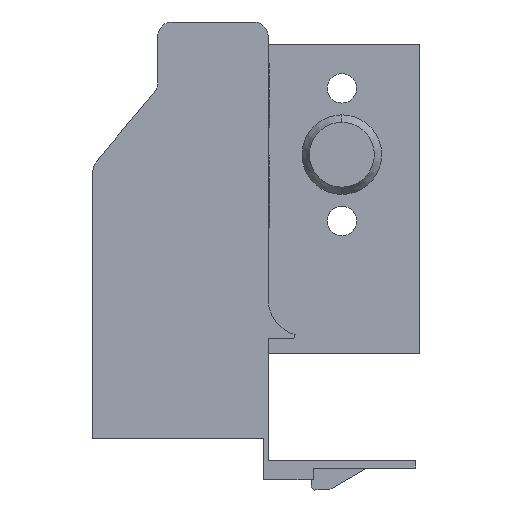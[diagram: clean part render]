
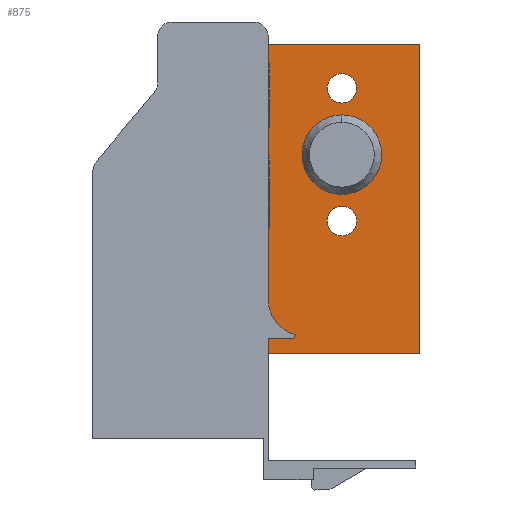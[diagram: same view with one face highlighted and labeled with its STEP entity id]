
A CAD part, front view. The second image highlights one B-rep face of the part: STEP entity #875.
In plain terms, the highlighted planar face has unit normal (0, -1, 0).
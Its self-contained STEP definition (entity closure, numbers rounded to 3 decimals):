
#51 = AXIS2_PLACEMENT_3D ( 'NONE', #2034, #2039, #2040 ) ;
#59 = EDGE_CURVE ( 'NONE', #1011, #1006, #763, .T. ) ;
#63 = EDGE_CURVE ( 'NONE', #1007, #1006, #740, .T. ) ;
#174 = EDGE_CURVE ( 'NONE', #933, #935, #1235, .T. ) ;
#178 = EDGE_CURVE ( 'NONE', #915, #922, #1236, .T. ) ;
#190 = AXIS2_PLACEMENT_3D ( 'NONE', #1828, #1833, #1834 ) ;
#207 = AXIS2_PLACEMENT_3D ( 'NONE', #1654, #1655, #1656 ) ;
#213 = AXIS2_PLACEMENT_3D ( 'NONE', #1864, #1873, #1874 ) ;
#224 = AXIS2_PLACEMENT_3D ( 'NONE', #1657, #1660, #1661 ) ;
#239 = EDGE_CURVE ( 'NONE', #1010, #1009, #1302, .T. ) ;
#246 = EDGE_CURVE ( 'NONE', #1009, #1008, #1310, .T. ) ;
#248 = EDGE_CURVE ( 'NONE', #1007, #1008, #1309, .T. ) ;
#249 = AXIS2_PLACEMENT_3D ( 'NONE', #1872, #1895, #1896 ) ;
#304 = AXIS2_PLACEMENT_3D ( 'NONE', #1825, #1840, #1841 ) ;
#311 = EDGE_CURVE ( 'NONE', #922, #915, #1378, .T. ) ;
#314 = EDGE_CURVE ( 'NONE', #935, #933, #1382, .T. ) ;
#337 = EDGE_CURVE ( 'NONE', #942, #912, #1406, .T. ) ;
#357 = EDGE_CURVE ( 'NONE', #912, #942, #1424, .T. ) ;
#358 = EDGE_CURVE ( 'NONE', #1010, #1011, #1400, .T. ) ;
#625 = ORIENTED_EDGE ( 'NONE', *, *, #174, .F. ) ;
#629 = ORIENTED_EDGE ( 'NONE', *, *, #248, .T. ) ;
#632 = ORIENTED_EDGE ( 'NONE', *, *, #357, .F. ) ;
#633 = ORIENTED_EDGE ( 'NONE', *, *, #239, .F. ) ;
#637 = ORIENTED_EDGE ( 'NONE', *, *, #59, .T. ) ;
#639 = ORIENTED_EDGE ( 'NONE', *, *, #358, .T. ) ;
#641 = ORIENTED_EDGE ( 'NONE', *, *, #337, .F. ) ;
#642 = ORIENTED_EDGE ( 'NONE', *, *, #63, .F. ) ;
#644 = ORIENTED_EDGE ( 'NONE', *, *, #178, .T. ) ;
#645 = ORIENTED_EDGE ( 'NONE', *, *, #314, .F. ) ;
#646 = ORIENTED_EDGE ( 'NONE', *, *, #311, .T. ) ;
#650 = ORIENTED_EDGE ( 'NONE', *, *, #246, .F. ) ;
#737 = VECTOR ( 'NONE', #1064, 1000. ) ;
#740 = LINE ( 'NONE', #1061, #737 ) ;
#745 = VECTOR ( 'NONE', #1057, 1000. ) ;
#763 = LINE ( 'NONE', #1051, #745 ) ;
#875 = ADVANCED_FACE ( 'NONE', ( #1484, #1488, #1490, #1492 ), #2031, .T. ) ;
#912 = VERTEX_POINT ( 'NONE', #2153 ) ;
#915 = VERTEX_POINT ( 'NONE', #2164 ) ;
#922 = VERTEX_POINT ( 'NONE', #2170 ) ;
#933 = VERTEX_POINT ( 'NONE', #2181 ) ;
#935 = VERTEX_POINT ( 'NONE', #2183 ) ;
#942 = VERTEX_POINT ( 'NONE', #2190 ) ;
#1006 = VERTEX_POINT ( 'NONE', #1568 ) ;
#1007 = VERTEX_POINT ( 'NONE', #1569 ) ;
#1008 = VERTEX_POINT ( 'NONE', #1570 ) ;
#1009 = VERTEX_POINT ( 'NONE', #1571 ) ;
#1010 = VERTEX_POINT ( 'NONE', #1572 ) ;
#1011 = VERTEX_POINT ( 'NONE', #1573 ) ;
#1051 = CARTESIAN_POINT ( 'NONE',  ( 21.1, 397.2, 40. ) ) ;
#1057 = DIRECTION ( 'NONE',  ( -1., 0., 0. ) ) ;
#1061 = CARTESIAN_POINT ( 'NONE',  ( 21.1, 397.2, 20. ) ) ;
#1064 = DIRECTION ( 'NONE',  ( 0., 0., 1. ) ) ;
#1122 = EDGE_LOOP ( 'NONE', ( #644, #646 ) ) ;
#1127 = EDGE_LOOP ( 'NONE', ( #629, #650, #633, #639, #637, #642 ) ) ;
#1136 = EDGE_LOOP ( 'NONE', ( #645, #625 ) ) ;
#1156 = EDGE_LOOP ( 'NONE', ( #641, #632 ) ) ;
#1235 = CIRCLE ( 'NONE', #207, 2. ) ;
#1236 = CIRCLE ( 'NONE', #224, 5.4 ) ;
#1287 = VECTOR ( 'NONE', #1759, 1000. ) ;
#1302 = LINE ( 'NONE', #1744, #1303 ) ;
#1303 = VECTOR ( 'NONE', #1745, 1000. ) ;
#1309 = LINE ( 'NONE', #1758, #1287 ) ;
#1310 = LINE ( 'NONE', #1752, #1311 ) ;
#1311 = VECTOR ( 'NONE', #1753, 1000. ) ;
#1378 = CIRCLE ( 'NONE', #190, 5.4 ) ;
#1382 = CIRCLE ( 'NONE', #304, 2. ) ;
#1400 = LINE ( 'NONE', #1897, #1410 ) ;
#1406 = CIRCLE ( 'NONE', #213, 2. ) ;
#1410 = VECTOR ( 'NONE', #1898, 1000. ) ;
#1424 = CIRCLE ( 'NONE', #249, 2. ) ;
#1484 = FACE_OUTER_BOUND ( 'NONE', #1127, .T. ) ;
#1488 = FACE_BOUND ( 'NONE', #1122, .T. ) ;
#1490 = FACE_BOUND ( 'NONE', #1156, .T. ) ;
#1492 = FACE_BOUND ( 'NONE', #1136, .T. ) ;
#1568 = CARTESIAN_POINT ( 'NONE',  ( 21.1, 397.2, 40. ) ) ;
#1569 = CARTESIAN_POINT ( 'NONE',  ( 21.1, 397.2, -0.405 ) ) ;
#1570 = CARTESIAN_POINT ( 'NONE',  ( 21.5, 397.2, -0.405 ) ) ;
#1571 = CARTESIAN_POINT ( 'NONE',  ( 21.5, 397.2, -2. ) ) ;
#1572 = CARTESIAN_POINT ( 'NONE',  ( 42., 397.2, -2. ) ) ;
#1573 = CARTESIAN_POINT ( 'NONE',  ( 42., 397.2, 40. ) ) ;
#1654 = CARTESIAN_POINT ( 'NONE',  ( 31.5, 397.2, 34. ) ) ;
#1655 = DIRECTION ( 'NONE',  ( 0., -1., 0. ) ) ;
#1656 = DIRECTION ( 'NONE',  ( -1., 0., 0. ) ) ;
#1657 = CARTESIAN_POINT ( 'NONE',  ( 31.5, 397.2, 25. ) ) ;
#1660 = DIRECTION ( 'NONE',  ( 0., 1., 0. ) ) ;
#1661 = DIRECTION ( 'NONE',  ( -1., 0., 0. ) ) ;
#1744 = CARTESIAN_POINT ( 'NONE',  ( 21.5, 397.2, -2. ) ) ;
#1745 = DIRECTION ( 'NONE',  ( -1., 0., 0. ) ) ;
#1752 = CARTESIAN_POINT ( 'NONE',  ( 21.5, 397.2, -64.538 ) ) ;
#1753 = DIRECTION ( 'NONE',  ( 0., 0., 1. ) ) ;
#1758 = CARTESIAN_POINT ( 'NONE',  ( 21.1, 397.2, -0.405 ) ) ;
#1759 = DIRECTION ( 'NONE',  ( 1., 0., 0. ) ) ;
#1825 = CARTESIAN_POINT ( 'NONE',  ( 31.5, 397.2, 34. ) ) ;
#1828 = CARTESIAN_POINT ( 'NONE',  ( 31.5, 397.2, 25. ) ) ;
#1833 = DIRECTION ( 'NONE',  ( 0., 1., 0. ) ) ;
#1834 = DIRECTION ( 'NONE',  ( -1., 0., 0. ) ) ;
#1840 = DIRECTION ( 'NONE',  ( 0., -1., 0. ) ) ;
#1841 = DIRECTION ( 'NONE',  ( -1., 0., 0. ) ) ;
#1864 = CARTESIAN_POINT ( 'NONE',  ( 31.5, 397.2, 16. ) ) ;
#1872 = CARTESIAN_POINT ( 'NONE',  ( 31.5, 397.2, 16. ) ) ;
#1873 = DIRECTION ( 'NONE',  ( 0., -1., 0. ) ) ;
#1874 = DIRECTION ( 'NONE',  ( -1., 0., 0. ) ) ;
#1895 = DIRECTION ( 'NONE',  ( 0., -1., 0. ) ) ;
#1896 = DIRECTION ( 'NONE',  ( -1., 0., 0. ) ) ;
#1897 = CARTESIAN_POINT ( 'NONE',  ( 42., 397.2, 20. ) ) ;
#1898 = DIRECTION ( 'NONE',  ( 0., 0., 1. ) ) ;
#2031 = PLANE ( 'NONE',  #51 ) ;
#2034 = CARTESIAN_POINT ( 'NONE',  ( 21.1, 397.2, 20. ) ) ;
#2039 = DIRECTION ( 'NONE',  ( 0., -1., 0. ) ) ;
#2040 = DIRECTION ( 'NONE',  ( -1., 0., 0. ) ) ;
#2153 = CARTESIAN_POINT ( 'NONE',  ( 29.5, 397.2, 16. ) ) ;
#2164 = CARTESIAN_POINT ( 'NONE',  ( 31.5, 397.2, 30.4 ) ) ;
#2170 = CARTESIAN_POINT ( 'NONE',  ( 31.5, 397.2, 19.6 ) ) ;
#2181 = CARTESIAN_POINT ( 'NONE',  ( 29.5, 397.2, 34. ) ) ;
#2183 = CARTESIAN_POINT ( 'NONE',  ( 33.5, 397.2, 34. ) ) ;
#2190 = CARTESIAN_POINT ( 'NONE',  ( 33.5, 397.2, 16. ) ) ;
